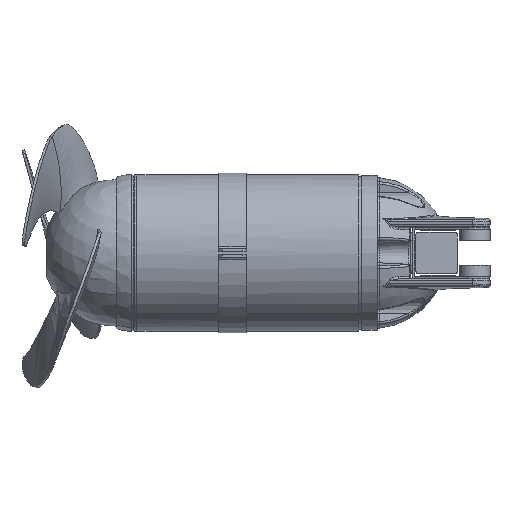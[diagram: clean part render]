
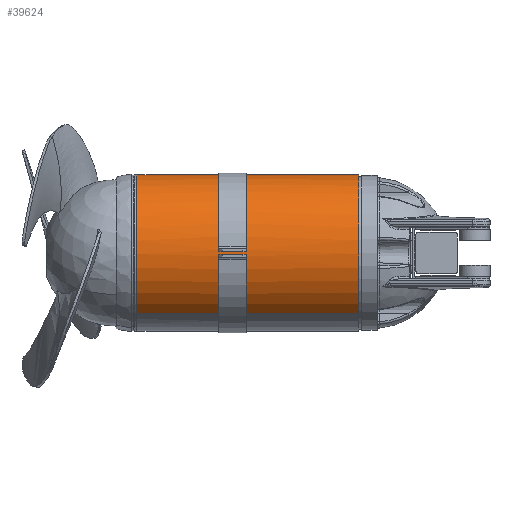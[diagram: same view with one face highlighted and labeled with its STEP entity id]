
A CAD part, front view. The second image highlights one B-rep face of the part: STEP entity #39624.
In plain terms, the highlighted cylindrical face has radius 113 mm (diameter 226 mm), a partial arc.
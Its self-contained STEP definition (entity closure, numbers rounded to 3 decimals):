
#199 = CARTESIAN_POINT ( 'NONE',  ( -162., -71.501, -87.502 ) ) ;
#1590 = VERTEX_POINT ( 'NONE', #13100 ) ;
#3252 = AXIS2_PLACEMENT_3D ( 'NONE', #114864, #52815, #125329 ) ;
#4871 = CARTESIAN_POINT ( 'NONE',  ( -380.446, 71.501, 87.502 ) ) ;
#6554 = CYLINDRICAL_SURFACE ( 'NONE', #27056, 113. ) ;
#9804 = EDGE_CURVE ( 'NONE', #23713, #67346, #21856, .T. ) ;
#10605 = VERTEX_POINT ( 'NONE', #14560 ) ;
#11262 = FACE_OUTER_BOUND ( 'NONE', #15619, .T. ) ;
#12496 = ORIENTED_EDGE ( 'NONE', *, *, #68695, .F. ) ;
#13100 = CARTESIAN_POINT ( 'NONE',  ( -320.175, 71.501, 87.502 ) ) ;
#13659 = CARTESIAN_POINT ( 'NONE',  ( -202., -112.905, 4.624 ) ) ;
#13688 = VERTEX_POINT ( 'NONE', #50965 ) ;
#14560 = CARTESIAN_POINT ( 'NONE',  ( -320.175, -71.501, -87.502 ) ) ;
#15619 = EDGE_LOOP ( 'NONE', ( #113879, #127989, #78299, #95864, #37334, #12496, #37373, #34962, #54407, #131457, #33649, #22871, #18455 ) ) ;
#16653 = AXIS2_PLACEMENT_3D ( 'NONE', #57555, #130099, #67925 ) ;
#18455 = ORIENTED_EDGE ( 'NONE', *, *, #72352, .F. ) ;
#18895 = CARTESIAN_POINT ( 'NONE',  ( -320.175, 35.929, 107.136 ) ) ;
#19638 = VECTOR ( 'NONE', #25692, 1000. ) ;
#21494 = VECTOR ( 'NONE', #104479, 1000. ) ;
#21856 = LINE ( 'NONE', #105393, #21494 ) ;
#22871 = ORIENTED_EDGE ( 'NONE', *, *, #99576, .F. ) ;
#23367 = CARTESIAN_POINT ( 'NONE',  ( -202., -112.905, -4.624 ) ) ;
#23640 = EDGE_CURVE ( 'NONE', #131265, #1590, #71375, .T. ) ;
#23713 = VERTEX_POINT ( 'NONE', #36519 ) ;
#24298 = CARTESIAN_POINT ( 'NONE',  ( -202., 0., 0. ) ) ;
#25129 = LINE ( 'NONE', #82333, #76876 ) ;
#25692 = DIRECTION ( 'NONE',  ( -1., 0., 0. ) ) ;
#27056 = AXIS2_PLACEMENT_3D ( 'NONE', #108463, #98020, #88083 ) ;
#28236 = AXIS2_PLACEMENT_3D ( 'NONE', #41079, #113502, #51476 ) ;
#28295 = LINE ( 'NONE', #123251, #107589 ) ;
#28554 = VECTOR ( 'NONE', #47507, 1000. ) ;
#29733 = LINE ( 'NONE', #37113, #28554 ) ;
#31241 = DIRECTION ( 'NONE',  ( -1., 0., 0. ) ) ;
#33649 = ORIENTED_EDGE ( 'NONE', *, *, #116125, .T. ) ;
#34181 = VERTEX_POINT ( 'NONE', #96824 ) ;
#34661 = DIRECTION ( 'NONE',  ( 0., 0., 1. ) ) ;
#34962 = ORIENTED_EDGE ( 'NONE', *, *, #41122, .T. ) ;
#36124 = DIRECTION ( 'NONE',  ( -1., 0., 0. ) ) ;
#36519 = CARTESIAN_POINT ( 'NONE',  ( 0., 71.501, 87.502 ) ) ;
#37113 = CARTESIAN_POINT ( 'NONE',  ( -182., -112.905, 4.624 ) ) ;
#37334 = ORIENTED_EDGE ( 'NONE', *, *, #48862, .F. ) ;
#37373 = ORIENTED_EDGE ( 'NONE', *, *, #23640, .T. ) ;
#39624 = ADVANCED_FACE ( 'NONE', ( #11262 ), #6554, .T. ) ;
#40815 = DIRECTION ( 'NONE',  ( -1., 0., 0. ) ) ;
#41079 = CARTESIAN_POINT ( 'NONE',  ( -320.175, 0., 0. ) ) ;
#41122 = EDGE_CURVE ( 'NONE', #1590, #93640, #101809, .T. ) ;
#44482 = EDGE_CURVE ( 'NONE', #93640, #10605, #90478, .T. ) ;
#45048 = CARTESIAN_POINT ( 'NONE',  ( -202., 0., 0. ) ) ;
#47507 = DIRECTION ( 'NONE',  ( 1., 0., 0. ) ) ;
#48025 = EDGE_CURVE ( 'NONE', #67346, #34181, #49548, .T. ) ;
#48862 = EDGE_CURVE ( 'NONE', #60412, #34181, #29733, .T. ) ;
#49548 = CIRCLE ( 'NONE', #3252, 113. ) ;
#50965 = CARTESIAN_POINT ( 'NONE',  ( 0., -71.501, -87.502 ) ) ;
#50975 = DIRECTION ( 'NONE',  ( -1., 0., 0. ) ) ;
#51476 = DIRECTION ( 'NONE',  ( 0., 0., -1. ) ) ;
#52815 = DIRECTION ( 'NONE',  ( 1., 0., 0. ) ) ;
#54115 = CIRCLE ( 'NONE', #75001, 113. ) ;
#54407 = ORIENTED_EDGE ( 'NONE', *, *, #44482, .T. ) ;
#55397 = EDGE_CURVE ( 'NONE', #13688, #84089, #28295, .T. ) ;
#55406 = VECTOR ( 'NONE', #114195, 1000. ) ;
#55424 = DIRECTION ( 'NONE',  ( 0., 0., -1. ) ) ;
#57555 = CARTESIAN_POINT ( 'NONE',  ( -320.175, 0., 0. ) ) ;
#60412 = VERTEX_POINT ( 'NONE', #13659 ) ;
#67346 = VERTEX_POINT ( 'NONE', #81466 ) ;
#67925 = DIRECTION ( 'NONE',  ( 0., 0., -1. ) ) ;
#68375 = AXIS2_PLACEMENT_3D ( 'NONE', #98051, #36124, #108490 ) ;
#68695 = EDGE_CURVE ( 'NONE', #131265, #60412, #54115, .T. ) ;
#71375 = LINE ( 'NONE', #4871, #19638 ) ;
#72352 = EDGE_CURVE ( 'NONE', #84089, #90775, #123125, .T. ) ;
#72478 = CARTESIAN_POINT ( 'NONE',  ( -380.446, -71.501, -87.502 ) ) ;
#75001 = AXIS2_PLACEMENT_3D ( 'NONE', #24298, #96612, #34661 ) ;
#76876 = VECTOR ( 'NONE', #31241, 1000. ) ;
#78299 = ORIENTED_EDGE ( 'NONE', *, *, #9804, .T. ) ;
#79283 = CIRCLE ( 'NONE', #90304, 113. ) ;
#81466 = CARTESIAN_POINT ( 'NONE',  ( -162., 71.501, 87.502 ) ) ;
#82333 = CARTESIAN_POINT ( 'NONE',  ( -182., -112.905, -4.624 ) ) ;
#82929 = LINE ( 'NONE', #72478, #55406 ) ;
#84089 = VERTEX_POINT ( 'NONE', #199 ) ;
#86299 = EDGE_CURVE ( 'NONE', #13688, #23713, #124016, .T. ) ;
#88083 = DIRECTION ( 'NONE',  ( 0., 0.633, 0.774 ) ) ;
#90304 = AXIS2_PLACEMENT_3D ( 'NONE', #45048, #117476, #55424 ) ;
#90478 = CIRCLE ( 'NONE', #28236, 113. ) ;
#90775 = VERTEX_POINT ( 'NONE', #122402 ) ;
#91263 = EDGE_CURVE ( 'NONE', #132413, #10605, #82929, .T. ) ;
#92586 = CARTESIAN_POINT ( 'NONE',  ( -202., -71.501, -87.502 ) ) ;
#93432 = AXIS2_PLACEMENT_3D ( 'NONE', #112986, #50975, #123443 ) ;
#93640 = VERTEX_POINT ( 'NONE', #18895 ) ;
#95864 = ORIENTED_EDGE ( 'NONE', *, *, #48025, .T. ) ;
#96612 = DIRECTION ( 'NONE',  ( 1., 0., 0. ) ) ;
#96824 = CARTESIAN_POINT ( 'NONE',  ( -162., -112.905, 4.624 ) ) ;
#98020 = DIRECTION ( 'NONE',  ( -1., 0., 0. ) ) ;
#98051 = CARTESIAN_POINT ( 'NONE',  ( 0., 0., 0. ) ) ;
#99576 = EDGE_CURVE ( 'NONE', #90775, #101364, #25129, .T. ) ;
#101364 = VERTEX_POINT ( 'NONE', #23367 ) ;
#101809 = CIRCLE ( 'NONE', #16653, 113. ) ;
#104479 = DIRECTION ( 'NONE',  ( -1., 0., 0. ) ) ;
#105393 = CARTESIAN_POINT ( 'NONE',  ( -380.446, 71.501, 87.502 ) ) ;
#107589 = VECTOR ( 'NONE', #40815, 1000. ) ;
#108463 = CARTESIAN_POINT ( 'NONE',  ( -380.446, 0., 0. ) ) ;
#108490 = DIRECTION ( 'NONE',  ( 0., 0.633, 0.774 ) ) ;
#112986 = CARTESIAN_POINT ( 'NONE',  ( -162., 0., 0. ) ) ;
#113502 = DIRECTION ( 'NONE',  ( 1., 0., 0. ) ) ;
#113879 = ORIENTED_EDGE ( 'NONE', *, *, #55397, .F. ) ;
#114195 = DIRECTION ( 'NONE',  ( -1., 0., 0. ) ) ;
#114864 = CARTESIAN_POINT ( 'NONE',  ( -162., 0., 0. ) ) ;
#116125 = EDGE_CURVE ( 'NONE', #132413, #101364, #79283, .T. ) ;
#117476 = DIRECTION ( 'NONE',  ( -1., 0., 0. ) ) ;
#122402 = CARTESIAN_POINT ( 'NONE',  ( -162., -112.905, -4.624 ) ) ;
#123125 = CIRCLE ( 'NONE', #93432, 113. ) ;
#123251 = CARTESIAN_POINT ( 'NONE',  ( -380.446, -71.501, -87.502 ) ) ;
#123443 = DIRECTION ( 'NONE',  ( 0., 0., -1. ) ) ;
#124016 = CIRCLE ( 'NONE', #68375, 113. ) ;
#125329 = DIRECTION ( 'NONE',  ( 0., 0., 1. ) ) ;
#127989 = ORIENTED_EDGE ( 'NONE', *, *, #86299, .T. ) ;
#130099 = DIRECTION ( 'NONE',  ( 1., 0., 0. ) ) ;
#131265 = VERTEX_POINT ( 'NONE', #133587 ) ;
#131457 = ORIENTED_EDGE ( 'NONE', *, *, #91263, .F. ) ;
#132413 = VERTEX_POINT ( 'NONE', #92586 ) ;
#133587 = CARTESIAN_POINT ( 'NONE',  ( -202., 71.501, 87.502 ) ) ;
